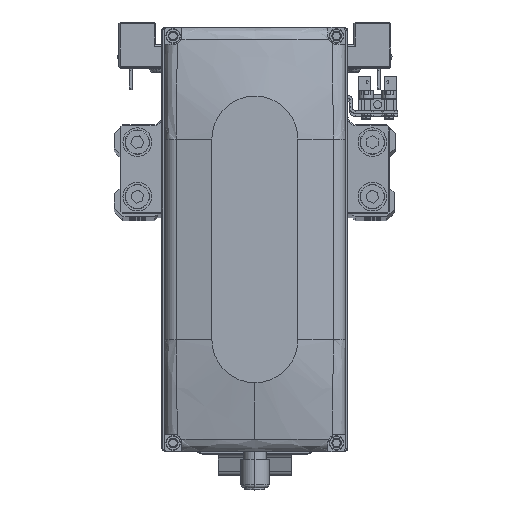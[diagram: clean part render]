
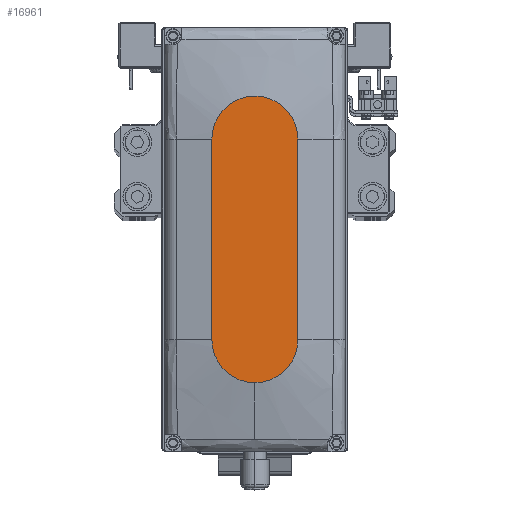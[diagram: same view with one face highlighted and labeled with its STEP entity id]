
A CAD part, top view. The second image highlights one B-rep face of the part: STEP entity #16961.
In plain terms, the highlighted planar face has unit normal (0, 0, 1).
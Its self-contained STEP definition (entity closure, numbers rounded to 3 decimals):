
#306 = VECTOR ( 'NONE', #8659, 1000. ) ;
#1474 = CIRCLE ( 'NONE', #25313, 15. ) ;
#1926 = DIRECTION ( 'NONE',  ( 0., 0., 1. ) ) ;
#2481 = CIRCLE ( 'NONE', #31751, 15. ) ;
#4181 = CARTESIAN_POINT ( 'NONE',  ( 35., -15., 35. ) ) ;
#4289 = VERTEX_POINT ( 'NONE', #31643 ) ;
#4881 = ORIENTED_EDGE ( 'NONE', *, *, #9932, .T. ) ;
#5134 = FACE_OUTER_BOUND ( 'NONE', #29839, .T. ) ;
#5136 = DIRECTION ( 'NONE',  ( 0., 0., 1. ) ) ;
#5248 = CARTESIAN_POINT ( 'NONE',  ( -35., 0., 35. ) ) ;
#6135 = ORIENTED_EDGE ( 'NONE', *, *, #35518, .T. ) ;
#6282 = CARTESIAN_POINT ( 'NONE',  ( -35., 15., 35. ) ) ;
#8526 = AXIS2_PLACEMENT_3D ( 'NONE', #34332, #5136, #18153 ) ;
#8659 = DIRECTION ( 'NONE',  ( 1., 0., 0. ) ) ;
#9138 = DIRECTION ( 'NONE',  ( -1., 0., 0. ) ) ;
#9143 = VERTEX_POINT ( 'NONE', #11815 ) ;
#9932 = EDGE_CURVE ( 'NONE', #11316, #32103, #1474, .T. ) ;
#10868 = DIRECTION ( 'NONE',  ( 0., 0., 1. ) ) ;
#11316 = VERTEX_POINT ( 'NONE', #4181 ) ;
#11815 = CARTESIAN_POINT ( 'NONE',  ( -35., -15., 35. ) ) ;
#14931 = DIRECTION ( 'NONE',  ( 1., 0., 0. ) ) ;
#16961 = ADVANCED_FACE ( 'NONE', ( #5134 ), #18151, .T. ) ;
#18151 = PLANE ( 'NONE',  #28025 ) ;
#18153 = DIRECTION ( 'NONE',  ( 1., 0., 0. ) ) ;
#18267 = DIRECTION ( 'NONE',  ( 0., 0., 1. ) ) ;
#20023 = VECTOR ( 'NONE', #9138, 1000. ) ;
#22196 = EDGE_CURVE ( 'NONE', #32103, #4289, #26902, .T. ) ;
#23188 = EDGE_CURVE ( 'NONE', #34465, #9143, #2481, .T. ) ;
#23868 = DIRECTION ( 'NONE',  ( 1., 0., 0. ) ) ;
#24866 = LINE ( 'NONE', #37859, #306 ) ;
#25313 = AXIS2_PLACEMENT_3D ( 'NONE', #40068, #10868, #23868 ) ;
#25338 = LINE ( 'NONE', #38332, #20023 ) ;
#26902 = CIRCLE ( 'NONE', #8526, 15. ) ;
#28025 = AXIS2_PLACEMENT_3D ( 'NONE', #31135, #1926, #14931 ) ;
#29367 = ORIENTED_EDGE ( 'NONE', *, *, #23188, .T. ) ;
#29839 = EDGE_LOOP ( 'NONE', ( #30213, #29367, #6135, #4881, #40900 ) ) ;
#30213 = ORIENTED_EDGE ( 'NONE', *, *, #32443, .T. ) ;
#31135 = CARTESIAN_POINT ( 'NONE',  ( 0., 0., 35. ) ) ;
#31246 = DIRECTION ( 'NONE',  ( 1., 0., 0. ) ) ;
#31643 = CARTESIAN_POINT ( 'NONE',  ( 35., 15., 35. ) ) ;
#31751 = AXIS2_PLACEMENT_3D ( 'NONE', #5248, #18267, #31246 ) ;
#32103 = VERTEX_POINT ( 'NONE', #33037 ) ;
#32443 = EDGE_CURVE ( 'NONE', #4289, #34465, #25338, .T. ) ;
#33037 = CARTESIAN_POINT ( 'NONE',  ( 50., 0., 35. ) ) ;
#34332 = CARTESIAN_POINT ( 'NONE',  ( 35., 0., 35. ) ) ;
#34465 = VERTEX_POINT ( 'NONE', #6282 ) ;
#35518 = EDGE_CURVE ( 'NONE', #9143, #11316, #24866, .T. ) ;
#37859 = CARTESIAN_POINT ( 'NONE',  ( -35., -15., 35. ) ) ;
#38332 = CARTESIAN_POINT ( 'NONE',  ( -35., 15., 35. ) ) ;
#40068 = CARTESIAN_POINT ( 'NONE',  ( 35., 0., 35. ) ) ;
#40900 = ORIENTED_EDGE ( 'NONE', *, *, #22196, .T. ) ;
